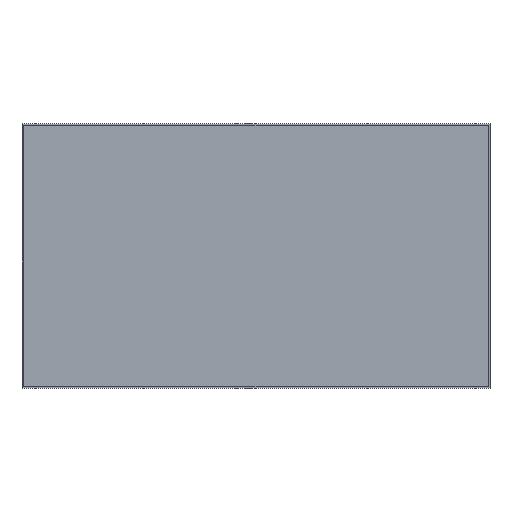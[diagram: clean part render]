
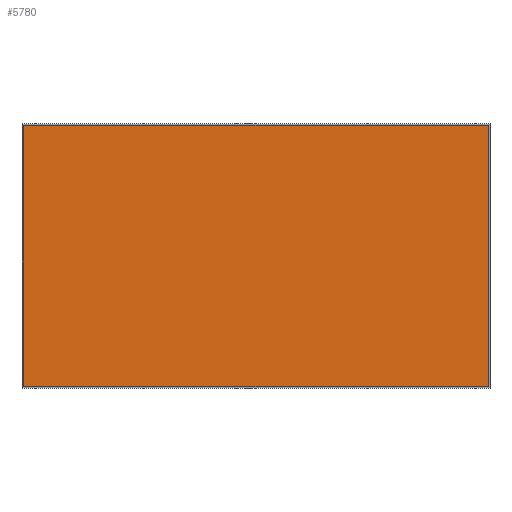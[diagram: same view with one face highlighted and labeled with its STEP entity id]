
A CAD part, top view. The second image highlights one B-rep face of the part: STEP entity #5780.
In plain terms, the highlighted planar face has unit normal (0, 0, 1).
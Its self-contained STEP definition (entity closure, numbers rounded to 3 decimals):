
#1058 = EDGE_CURVE ( 'NONE', #9732, #10902, #6151, .T. ) ;
#1059 = EDGE_CURVE ( 'NONE', #9724, #9732, #6156, .T. ) ;
#1060 = EDGE_CURVE ( 'NONE', #10918, #9724, #6155, .T. ) ;
#1061 = EDGE_CURVE ( 'NONE', #10902, #10918, #6158, .T. ) ;
#2484 = CARTESIAN_POINT ( 'NONE',  ( -509.04, 286.335, -0.36 ) ) ;
#2487 = CARTESIAN_POINT ( 'NONE',  ( -509.04, -286.335, -0.36 ) ) ;
#2834 = AXIS2_PLACEMENT_3D ( 'NONE', #12217, #12218, #12219 ) ;
#4180 = CARTESIAN_POINT ( 'NONE',  ( 509.04, -286.335, -0.36 ) ) ;
#4188 = CARTESIAN_POINT ( 'NONE',  ( 509.04, 286.335, -0.36 ) ) ;
#5780 = ADVANCED_FACE ( 'NONE', ( #6958 ), #12204, .F. ) ;
#6151 = LINE ( 'NONE', #8789, #6154 ) ;
#6154 = VECTOR ( 'NONE', #8792, 1000. ) ;
#6155 = LINE ( 'NONE', #8798, #6159 ) ;
#6156 = LINE ( 'NONE', #8776, #6157 ) ;
#6157 = VECTOR ( 'NONE', #8794, 1000. ) ;
#6158 = LINE ( 'NONE', #8802, #6161 ) ;
#6159 = VECTOR ( 'NONE', #8800, 1000. ) ;
#6161 = VECTOR ( 'NONE', #8805, 1000. ) ;
#6958 = FACE_OUTER_BOUND ( 'NONE', #8735, .T. ) ;
#8304 = ORIENTED_EDGE ( 'NONE', *, *, #1061, .T. ) ;
#8305 = ORIENTED_EDGE ( 'NONE', *, *, #1060, .T. ) ;
#8378 = ORIENTED_EDGE ( 'NONE', *, *, #1059, .T. ) ;
#8381 = ORIENTED_EDGE ( 'NONE', *, *, #1058, .T. ) ;
#8735 = EDGE_LOOP ( 'NONE', ( #8304, #8305, #8378, #8381 ) ) ;
#8776 = CARTESIAN_POINT ( 'NONE',  ( -509.04, -286.335, -0.36 ) ) ;
#8789 = CARTESIAN_POINT ( 'NONE',  ( -509.04, -286.335, -0.36 ) ) ;
#8792 = DIRECTION ( 'NONE',  ( 1., 0., 0. ) ) ;
#8794 = DIRECTION ( 'NONE',  ( 0., -1., 0. ) ) ;
#8798 = CARTESIAN_POINT ( 'NONE',  ( -509.04, 286.335, -0.36 ) ) ;
#8800 = DIRECTION ( 'NONE',  ( -1., 0., 0. ) ) ;
#8802 = CARTESIAN_POINT ( 'NONE',  ( 509.04, -286.335, -0.36 ) ) ;
#8805 = DIRECTION ( 'NONE',  ( 0., 1., 0. ) ) ;
#9724 = VERTEX_POINT ( 'NONE', #2484 ) ;
#9732 = VERTEX_POINT ( 'NONE', #2487 ) ;
#10902 = VERTEX_POINT ( 'NONE', #4180 ) ;
#10918 = VERTEX_POINT ( 'NONE', #4188 ) ;
#12204 = PLANE ( 'NONE',  #2834 ) ;
#12217 = CARTESIAN_POINT ( 'NONE',  ( 509.04, 286.335, -0.36 ) ) ;
#12218 = DIRECTION ( 'NONE',  ( 0., 0., -1. ) ) ;
#12219 = DIRECTION ( 'NONE',  ( -1., 0., 0. ) ) ;
